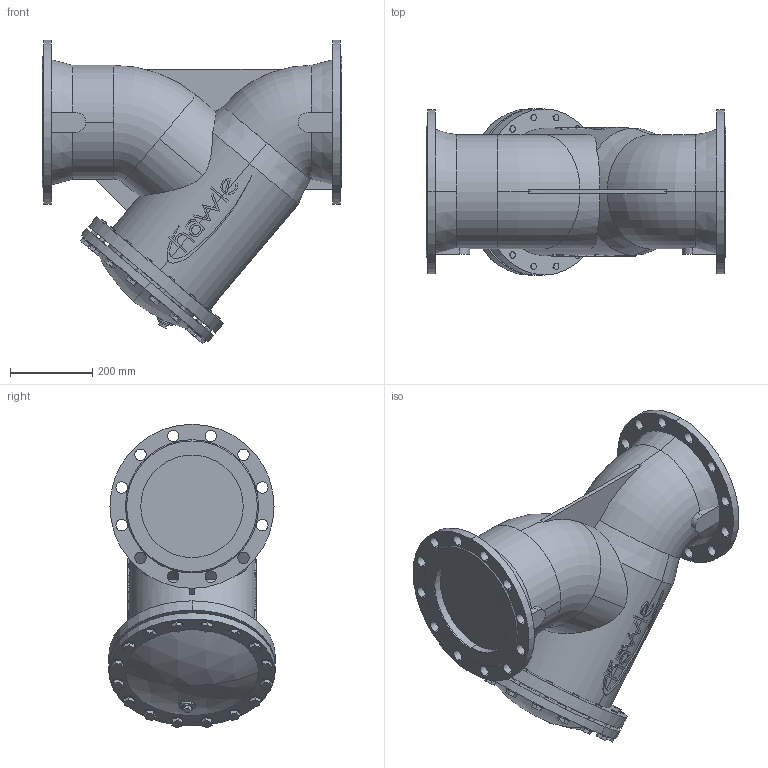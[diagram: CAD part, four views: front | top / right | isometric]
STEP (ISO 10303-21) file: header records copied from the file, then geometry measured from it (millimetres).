
FILE_DESCRIPTION(('STEP AP214'),'1');
FILE_NAME('S:/EK/USER/CAT6/3DHomepage_27-04-2012/9910/9910_PN16_DN250.stp','2013-03-12T09:31:08',(' '),(' '),'Spatial InterOp 3D',' ',' ');
FILE_SCHEMA(('automotive_design'));
Length unit declared in the file: millimetre
Products named in the file (84): 3D-Objekt
Bounding box: 730 x 405 x 739.8 mm (x, y, z)
Volume: 74410593.9 mm3; surface area: 3389136.7 mm2
Topology: 84 solids, 84 shells, 598 faces, 1286 edges, 858 vertices
Faces by surface type: plane 358, cylinder 224, cone 10, torus 4, sphere 2
Entity records: 23544 total; most frequent: CARTESIAN_POINT 3209, DIRECTION 3131, ORIENTED_EDGE 2572, EDGE_CURVE 1286, AXIS2_PLACEMENT_3D 1167, VERTEX_POINT 858, LINE 797, VECTOR 797
